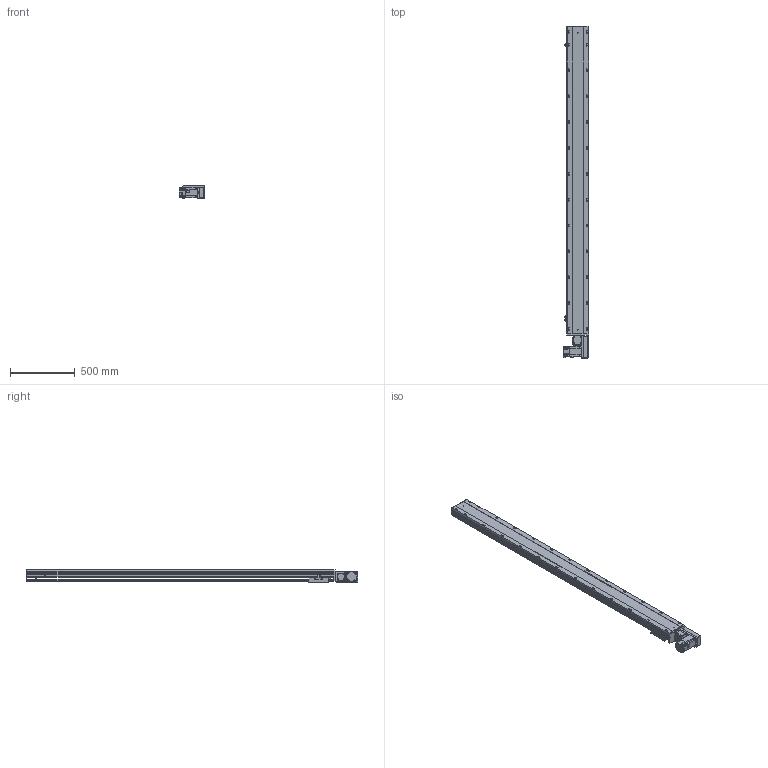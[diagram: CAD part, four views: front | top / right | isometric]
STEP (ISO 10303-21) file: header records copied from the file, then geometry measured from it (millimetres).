
FILE_DESCRIPTION (( 'STEP AP203' ), '1' );
FILE_NAME ('BTB17-L50-2100-L-T75-C4.STEP', '2022-07-26T01:17:08', ( 'CXY' ), ( 'BT' ), 'SwSTEP 2.0', 'SolidWorks 2016', '' );
FILE_SCHEMA (( 'CONFIG_CONTROL_DESIGN' ));
Length unit declared in the file: millimetre
Products named in the file (10): BTB17-L-02; BTB17-L-HZ; BTB17-L-23; BTB17-L50-2100-L-T75-C4; BTB17-L-24; BTB17-L-01; T75; BTB17-L-菁釱_XD; BTB17-L-06; BTB17-L-04
Assembly tree (12 placements, depth 2):
  BTB17-L50-2100-L-T75-C4
    BTB17-L-菁釱_XD
    BTB17-L-01
    BTB17-L-04  x3
    BTB17-L-06
    BTB17-L-23  x2
    BTB17-L-24
    BTB17-L-HZ
    BTB17-L-02
    T75
Bounding box: 195.3 x 2569.5 x 97 mm (x, y, z)
Volume: 21251288.1 mm3; surface area: 2735020.9 mm2
Topology: 22 solids, 22 shells, 1696 faces, 4441 edges, 2798 vertices
Faces by surface type: plane 880, cylinder 612, cone 168, bspline 20, torus 16
Entity records: 43721 total; most frequent: CARTESIAN_POINT 8120, DIRECTION 7371, ORIENTED_EDGE 6994, EDGE_CURVE 3497, AXIS2_PLACEMENT_3D 2573, VERTEX_POINT 2266, VECTOR 2225, LINE 2225
